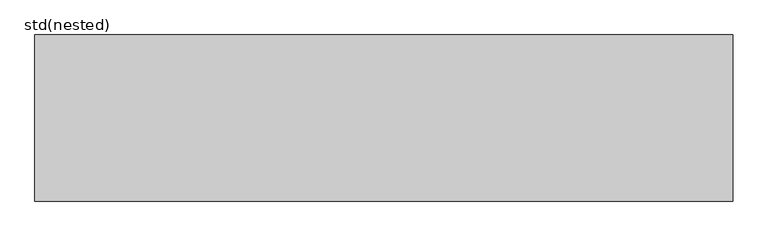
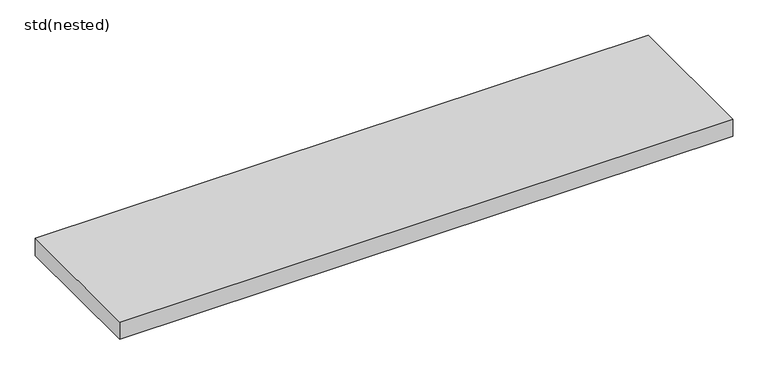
"""IFC4 building model written with IfcOpenShell, lengths in millimetres: sanitary terminal geometry, ZZZ_do not use_PF_ST_H200K_gratings_USA_ACO : std(nested)."""

import ifcopenshell
import ifcopenshell.guid

model = None  # the IFC model being written
_history = None  # IfcOwnerHistory: only IFC2X3 demands one
_inside = {}  # id of a spatial element -> (the spatial element, [elements in it])
_under = {}  # id of a project, library or spatial element -> (it, [spatial elements below it])
_declared = {}  # id of a project -> (the project, [libraries it declares])
_typed = {}  # id of a type object -> (the type object, [elements of that type])
_made_of = {}  # id of a material, layer set ... -> (it, [elements and type objects made of it])


def new_model(schema):
    """Start an empty IFC model of exactly this schema.

    Asked for "IFC4X3", IfcOpenShell would pick the latest addendum, in which some entities
    have other attributes; the version numbers below select the first issue.
    IFC2X3 requires an IfcOwnerHistory on every rooted entity: one is made here for all.
    """
    global model, _history
    if schema == "IFC4X3":
        model = ifcopenshell.file(schema_version=(4, 3, 0, 0))
    else:
        model = ifcopenshell.file(schema=schema)
    _inside.clear()
    _under.clear()
    _declared.clear()
    _typed.clear()
    _made_of.clear()
    _history = None
    if model.schema == "IFC2X3":
        org = make("IfcOrganization", Name="unknown")
        user = make(
            "IfcPersonAndOrganization",
            ThePerson=make("IfcPerson", FamilyName="unknown"),
            TheOrganization=org,
        )
        app = make(
            "IfcApplication",
            ApplicationDeveloper=org,
            Version="unknown",
            ApplicationFullName="unknown",
            ApplicationIdentifier="unknown",
        )
        _history = make(
            "IfcOwnerHistory",
            OwningUser=user,
            OwningApplication=app,
            ChangeAction="ADDED",
            CreationDate=0,
        )
    return model


def make(cls, **values):
    """One entity of the class cls with the attributes given. An attribute that is None is left unset."""
    return model.create_entity(
        cls, **{name: value for name, value in values.items() if value is not None}
    )


def rooted(cls, **values):
    """An entity with a GlobalId (a new one), such as an element, a storey or a relation."""
    return make(cls, GlobalId=ifcopenshell.guid.new(), OwnerHistory=_history, **values)


def si_unit(unit_type, name, prefix=None):
    """IfcSIUnit, for example si_unit("LENGTHUNIT", "METRE", prefix="MILLI")."""
    return make("IfcSIUnit", UnitType=unit_type, Prefix=prefix, Name=name)


def assignment(units):
    """IfcUnitAssignment: the units of a project."""
    return None if units is None else make("IfcUnitAssignment", Units=units)


def point(xyz):
    """IfcCartesianPoint."""
    return None if xyz is None else make("IfcCartesianPoint", Coordinates=xyz)


def direction(xyz):
    """IfcDirection."""
    return None if xyz is None else make("IfcDirection", DirectionRatios=xyz)


def frame(location, z_axis=None, x_axis=None):
    """IfcAxis2Placement3D, a coordinate frame: its origin and axes. An axis left out is left unset."""
    return make(
        "IfcAxis2Placement3D",
        Location=point(location),
        Axis=direction(z_axis),
        RefDirection=direction(x_axis),
    )


def origin():
    """The frame at (0, 0, 0) with its axes left unset."""
    return frame((0.0, 0.0, 0.0))


def place(relative_to, where):
    """IfcLocalPlacement: puts the frame where relative to a parent placement (None: the world)."""
    return make(
        "IfcLocalPlacement", PlacementRelTo=relative_to, RelativePlacement=where
    )


def context(
    kind, dimensions, precision=None, world=None, true_north=None, identifier=None
):
    """IfcGeometricRepresentationContext, for example the 3D "Model" context."""
    return make(
        "IfcGeometricRepresentationContext",
        ContextIdentifier=identifier,
        ContextType=kind,
        CoordinateSpaceDimension=dimensions,
        Precision=precision,
        WorldCoordinateSystem=world,
        TrueNorth=true_north,
    )


def project(units=None, contexts=None):
    """IfcProject with its units and contexts."""
    return rooted(
        "IfcProject",
        Name="project",
        RepresentationContexts=contexts,
        UnitsInContext=assignment(units),
    )


def spatial(cls, under=None, at=None, **own):
    """A site, building, storey or space (cls), placed at a placement, below another one or the project."""
    s = rooted(cls, ObjectPlacement=at, **own)
    if under is not None:
        _under.setdefault(under.id(), (under, []))[1].append(s)
    return s


def polyline(points):
    """IfcPolyline through the points."""
    return make("IfcPolyline", Points=[point(p) for p in points])


def outline(outer, holes=None, kind="AREA"):
    """IfcArbitraryClosedProfileDef: a profile drawn as a closed curve; with holes, ...WithVoids."""
    if holes is None:
        return make("IfcArbitraryClosedProfileDef", ProfileType=kind, OuterCurve=outer)
    return make(
        "IfcArbitraryProfileDefWithVoids",
        ProfileType=kind,
        OuterCurve=outer,
        InnerCurves=holes,
    )


def extrude(swept, where, along, depth):
    """IfcExtrudedAreaSolid: the profile swept, set in the frame where, extruded along a direction by depth."""
    return make(
        "IfcExtrudedAreaSolid",
        SweptArea=swept,
        Position=where,
        ExtrudedDirection=direction(along),
        Depth=depth,
    )


def shape(context_of_items, identifier, shape_type, items):
    """IfcShapeRepresentation: the items that make up one representation, for example the "Body"."""
    return make(
        "IfcShapeRepresentation",
        ContextOfItems=context_of_items,
        RepresentationIdentifier=identifier,
        RepresentationType=shape_type,
        Items=items,
    )


def source(mapping_origin, context_of_items, identifier, shape_type, items):
    """IfcRepresentationMap: a shape defined once, which mapped items show again and again."""
    return make(
        "IfcRepresentationMap",
        MappingOrigin=mapping_origin,
        MappedRepresentation=shape(context_of_items, identifier, shape_type, items),
    )


def transform(
    local_origin,
    x_axis=None,
    y_axis=None,
    z_axis=None,
    scale=None,
    scale2=None,
    scale3=None,
    uniform=True,
):
    """IfcCartesianTransformationOperator3D, or its non-uniform kind. x_axis, y_axis, z_axis: its Axis1, 2, 3."""
    if uniform:
        return make(
            "IfcCartesianTransformationOperator3D",
            Axis1=direction(x_axis),
            Axis2=direction(y_axis),
            LocalOrigin=point(local_origin),
            Scale=scale,
            Axis3=direction(z_axis),
        )
    return make(
        "IfcCartesianTransformationOperator3DnonUniform",
        Axis1=direction(x_axis),
        Axis2=direction(y_axis),
        LocalOrigin=point(local_origin),
        Scale=scale,
        Axis3=direction(z_axis),
        Scale2=scale2,
        Scale3=scale3,
    )


def mapped(mapping_source, mapping_target):
    """IfcMappedItem: shows the shape of a source again, moved by a transform."""
    return make(
        "IfcMappedItem", MappingSource=mapping_source, MappingTarget=mapping_target
    )


def made_of(thing, what):
    """Note that an element or type object is made of a material, layer set ...; save() writes the relation."""
    if what is not None:
        _made_of.setdefault(what.id(), (what, []))[1].append(thing)
    return thing


def element(
    cls,
    number,
    at=None,
    inside=None,
    cuts=None,
    type_object=None,
    material=None,
    context=None,
    identifier="Body",
    shape_type=None,
    held_by="IfcProductDefinitionShape",
    body=None,
    shapes=None,
    **own,
):
    """One element of the class cls, such as IfcWall. Its Tag is "e" and its number.

    at: its placement. inside: the storey or other place that contains it. cuts: it is an
    opening in that element (IfcRelVoidsElement). A single representation is given by context,
    identifier, shape_type and body (its items); several are given by shapes. held_by: the class
    of the entity that holds the representations. save() writes the other relations.
    """
    e = rooted(cls, Tag="e%d" % number, ObjectPlacement=at, **own)
    if body is not None:
        shapes = [shape(context, identifier, shape_type, body)]
    if shapes is not None:
        e.Representation = make(held_by, Representations=shapes)
    if inside is not None:
        _inside.setdefault(inside.id(), (inside, []))[1].append(e)
    if cuts is not None:
        rooted(
            "IfcRelVoidsElement", RelatingBuildingElement=cuts, RelatedOpeningElement=e
        )
    if type_object is not None:
        _typed.setdefault(type_object.id(), (type_object, []))[1].append(e)
    return made_of(e, material)


def aggregate(whole, parts):
    """IfcRelAggregates: a whole, such as a stair, and the parts it consists of."""
    return rooted("IfcRelAggregates", RelatingObject=whole, RelatedObjects=parts)


def save(model, path):
    """Write the relations noted so far, then the file.

    IfcRelAggregates (storeys below a building ...), IfcRelContainedInSpatialStructure (elements
    in a storey), IfcRelDefinesByType, IfcRelAssociatesMaterial and IfcRelDeclares: one each for
    every whole, place, type object, material and project.
    """
    for whole, parts in _under.values():
        aggregate(whole, parts)
    for where, things in _inside.values():
        rooted(
            "IfcRelContainedInSpatialStructure",
            RelatedElements=things,
            RelatingStructure=where,
        )
    for kind, things in _typed.values():
        rooted("IfcRelDefinesByType", RelatedObjects=things, RelatingType=kind)
    for what, things in _made_of.values():
        rooted("IfcRelAssociatesMaterial", RelatedObjects=things, RelatingMaterial=what)
    for by, libraries in _declared.values():
        rooted("IfcRelDeclares", RelatingContext=by, RelatedDefinitions=libraries)
    model.write(path)


def std_nested_5eb3211c(model_context):
    return source(origin(), model_context, "Body", "SweptSolid", [
        extrude(outline(polyline([(500.0, 119.0), (500.0, -119.0), (-500.0, -119.0), (-500.0, 119.0), (500.0, 119.0)])), frame((0.0, 0.0, -113.0), z_axis=(0.0, 0.0, 1.0), x_axis=(1.0, 0.0, 0.0)), (0.0, 0.0, 1.0), 30.0),
    ])


if __name__ == "__main__":
    model = new_model("IFC4")
    model_context = context("Model", 3, world=origin())
    ifc_project = project(units=[si_unit("LENGTHUNIT", "METRE", prefix="MILLI")], contexts=[model_context])
    site = spatial("IfcSite", under=ifc_project)
    building = spatial("IfcBuilding", under=site)
    placement = place(None, origin())
    std_nested_shape = std_nested_5eb3211c(model_context)
    element("IfcSanitaryTerminal", 1, ObjectType="ZZZ_do not use_PF_ST_H200K_gratings_USA_ACO : std(nested)", at=placement, inside=building, context=model_context, shape_type="MappedRepresentation", body=[
        mapped(std_nested_shape, transform((0.0, 0.0, 0.0), x_axis=(1.0, 0.0, 0.0), y_axis=(0.0, 1.0, 0.0), z_axis=(0.0, 0.0, 1.0))),
    ])
    save(model, "model.ifc")
